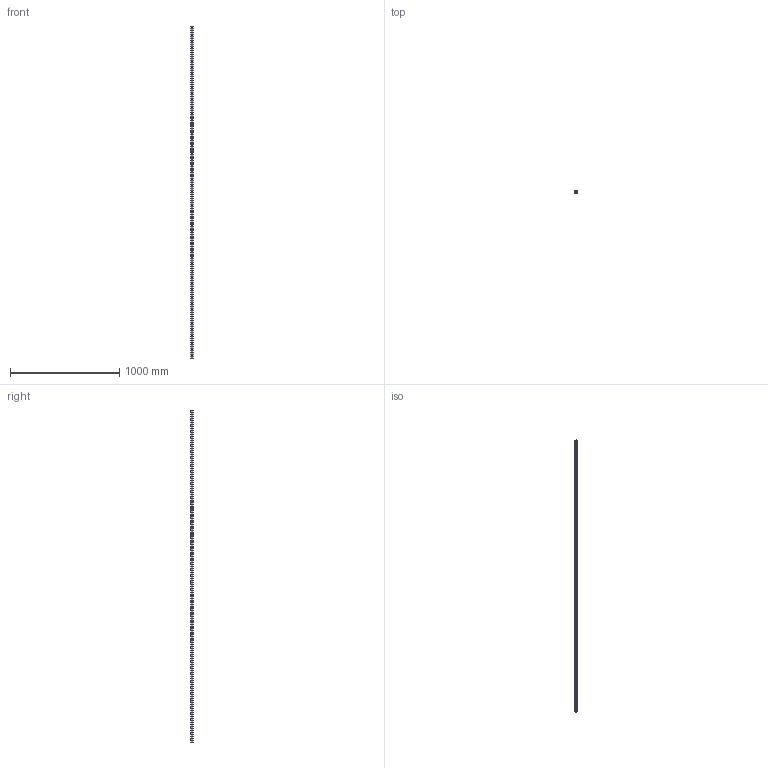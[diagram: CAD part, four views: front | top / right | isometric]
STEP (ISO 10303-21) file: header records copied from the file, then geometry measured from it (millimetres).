
FILE_DESCRIPTION (( 'STEP AP203' ), '1' );
FILE_NAME ('L1016.BL25-3040.step', '2019-06-12T12:13:36', ( '' ), ( '' ), 'SwSTEP 2.0', 'SolidWorks 2017', '' );
FILE_SCHEMA (( 'CONFIG_CONTROL_DESIGN' ));
Length unit declared in the file: millimetre
Products named in the file (1): L1016.BL25-3040
Bounding box: 23 x 19.2 x 3040 mm (x, y, z)
Volume: 1120291.8 mm3; surface area: 287608.4 mm2
Topology: 1 solids, 1 shells, 281 faces, 684 edges, 456 vertices
Faces by surface type: cylinder 208, plane 73
Entity records: 8755 total; most frequent: DIRECTION 1664, CARTESIAN_POINT 1422, ORIENTED_EDGE 1368, AXIS2_PLACEMENT_3D 698, EDGE_CURVE 684, VERTEX_POINT 456, EDGE_LOOP 434, CIRCLE 416
